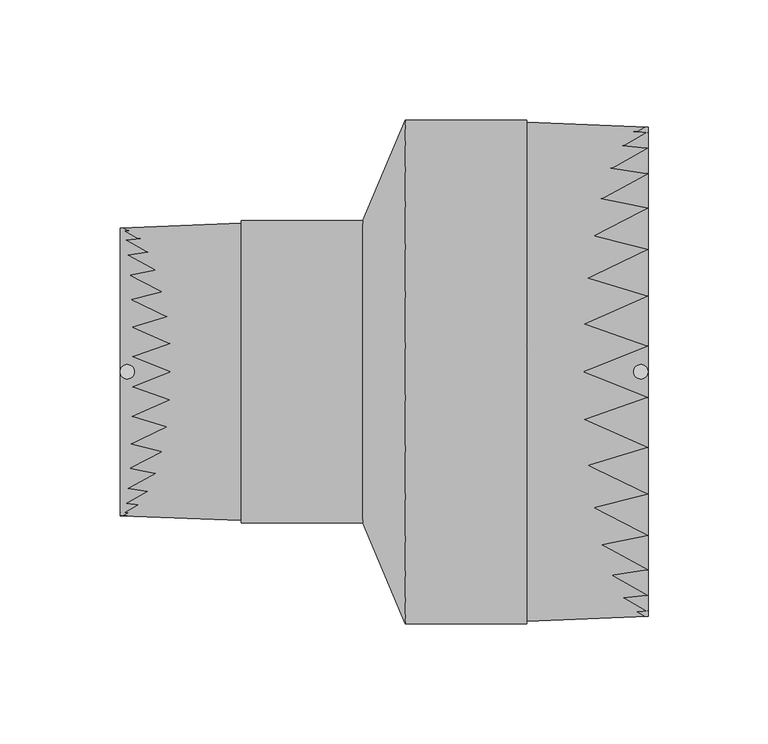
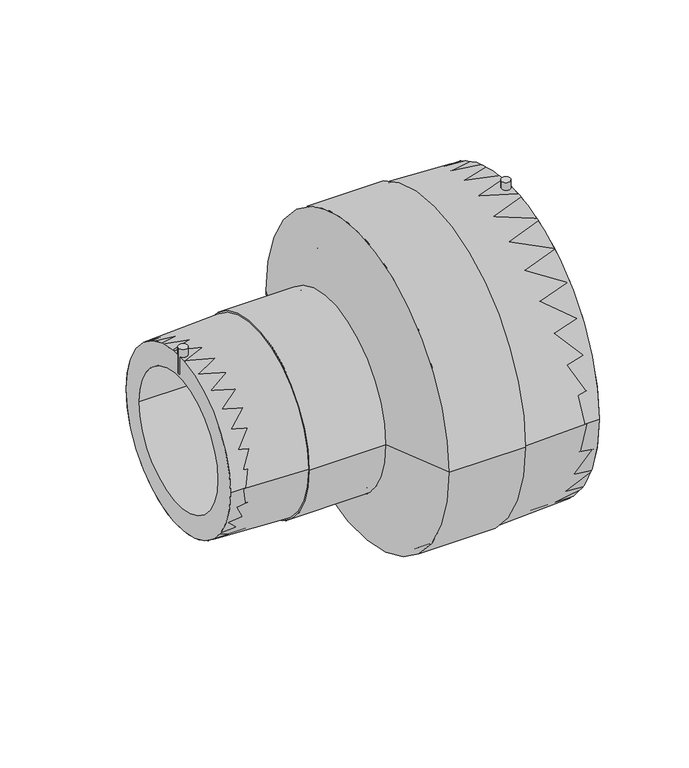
"""IFC4 building model written with IfcOpenShell, lengths in millimetres: pipe fitting geometry, EGB_VASEN_ PPR_Manguito reductor electrosoldable WXRD110 : Manguito reductor electrosoldable WXRD110."""

from ifc_helpers import new_model, si_unit, point, frame, frame_2d, origin, origin_2d, place, context, project, spatial, polyline, circle_curve, trimmed, segment, composite_curve, outline, extrude, source, transform, mapped, element, save
from ifc_brep_helpers import plane_surface, cylinder_surface, revolved_surface, advanced_brep


def pipe_fitting_d0497aa3(model_context):
    return source(origin(), model_context, "Body", "SolidModel", [
        extrude(outline(composite_curve([segment(trimmed(circle_curve(frame_2d((107.0, 0.0)), 3.0), [point((104.0, 0.0))], [point((110.0, 0.0))], False, "CARTESIAN"), True, "CONTINUOUS"), segment(trimmed(circle_curve(frame_2d((107.0, 0.0)), 3.0), [point((110.0, 0.0))], [point((104.0, 0.0))], False, "CARTESIAN"), True, "CONTINUOUS")], self_intersect=False)), frame((0.0, 0.0, 82.0), z_axis=(0.0, 0.0, 1.0), x_axis=(1.0, 0.0, 0.0)), (0.0, 0.0, 1.0), 25.0),
        extrude(outline(composite_curve([segment(trimmed(circle_curve(frame_2d((-107.0, 0.0)), 3.0), [point((-110.0, 0.0))], [point((-104.0, 0.0))], False, "CARTESIAN"), True, "CONTINUOUS"), segment(trimmed(circle_curve(frame_2d((-107.0, 0.0)), 3.0), [point((-104.0, 0.0))], [point((-110.0, 0.0))], False, "CARTESIAN"), True, "CONTINUOUS")], self_intersect=False)), frame((0.0, 0.0, 47.0), z_axis=(0.0, 0.0, 1.0), x_axis=(1.0, 0.0, 0.0)), (0.0, 0.0, 1.0), 18.0),
        extrude(outline(composite_curve([segment(trimmed(circle_curve(origin_2d(), 102.0), [point((-102.0, 0.0))], [point((102.0, 0.0))], False, "CARTESIAN"), True, "CONTINUOUS"), segment(trimmed(circle_curve(origin_2d(), 102.0), [point((102.0, 0.0))], [point((-102.0, 0.0))], False, "CARTESIAN"), True, "CONTINUOUS")], self_intersect=False), holes=[composite_curve([segment(trimmed(circle_curve(origin_2d(), 80.0), [point((-80.0, 0.0))], [point((80.0, 0.0))], True, "CARTESIAN"), True, "CONTINUOUS"), segment(trimmed(circle_curve(origin_2d(), 80.0), [point((80.0, 0.0))], [point((-80.0, 0.0))], True, "CARTESIAN"), True, "CONTINUOUS")], self_intersect=False)]), frame((8.8, 0.0, 0.0), z_axis=(1.0, 0.0, 0.0), x_axis=(0.0, 1.0, 0.0)), (0.0, 0.0, 1.0), 101.2),
        extrude(outline(composite_curve([segment(trimmed(circle_curve(origin_2d(), 60.0), [point((-60.0, 0.0))], [point((60.0, 0.0))], False, "CARTESIAN"), True, "CONTINUOUS"), segment(trimmed(circle_curve(origin_2d(), 60.0), [point((60.0, 0.0))], [point((-60.0, 0.0))], False, "CARTESIAN"), True, "CONTINUOUS")], self_intersect=False), holes=[composite_curve([segment(trimmed(circle_curve(origin_2d(), 45.0), [point((-45.0, 0.0))], [point((45.0, 0.0))], True, "CARTESIAN"), True, "CONTINUOUS"), segment(trimmed(circle_curve(origin_2d(), 45.0), [point((45.0, 0.0))], [point((-45.0, 0.0))], True, "CARTESIAN"), True, "CONTINUOUS")], self_intersect=False)]), frame((-110.0, 0.0, 0.0), z_axis=(1.0, 0.0, 0.0), x_axis=(0.0, 1.0, 0.0)), (0.0, 0.0, 1.0), 101.2),
        advanced_brep(
        [(8.8, -102.0, 0.0), (8.8, 102.0, 0.0), (-8.8, -60.0, 0.0), (-8.8, 60.0, 0.0)],
        [
            (0, 1, circle_curve(frame((8.8, 0.0, 0.0), z_axis=(1.0, 0.0, 0.0), x_axis=(0.0, -1.0, 0.0)), 102.0)),
            (1, 0, circle_curve(frame((8.8, 0.0, 0.0), z_axis=(1.0, 0.0, 0.0), x_axis=(0.0, 1.0, 0.0)), 102.0)),
            (2, 3, circle_curve(frame((-8.8, 0.0, 0.0), z_axis=(-1.0, 0.0, 0.0), x_axis=(0.0, 1.0, 0.0)), 60.0)),
            (3, 2, circle_curve(frame((-8.8, 0.0, 0.0), z_axis=(-1.0, 0.0, 0.0), x_axis=(0.0, -1.0, 0.0)), 60.0)),
            (3, 1),
            (0, 2),
        ],
        [
            plane_surface(frame((8.8, 0.0, 0.0), z_axis=(1.0, 0.0, 0.0), x_axis=(0.0, 0.0, -1.0))),
            plane_surface(frame((-8.8, 0.0, 0.0), z_axis=(-1.0, 0.0, 0.0), x_axis=(0.0, 0.0, -1.0))),
            revolved_surface(polyline([(-8.8, 59.999999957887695, 0.0), (8.799999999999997, 102.0, 0.0)]), (-33.9428571, 0.0, 0.0), (1.0, 0.0, 0.0)),
            revolved_surface(polyline([(-8.8, -59.999999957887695, 0.0), (8.799999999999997, -102.0, 0.0)]), (-33.9428571, 0.0, 0.0), (1.0, 0.0, 0.0)),
        ],
        [
            (0, [[1, 2]]),
            (1, [[3, 4]]),
            (2, [[-4, 5, -1, 6]]),
            (3, [[-3, -6, -2, -5]]),
        ],
    ),
        advanced_brep(
        [(8.8, -102.0, 0.0), (8.8, 102.0, 0.0), (-8.8, 60.0, 0.0), (-8.8, -60.0, 0.0), (110.0, -102.0, 0.0), (110.0, 102.0, 0.0), (59.4, -104.0, 0.0), (59.4, 104.0, 0.0), (59.4, -105.0, 0.0), (59.4, 105.0, 0.0), (8.8, -105.0, 0.0), (8.8, 105.0, 0.0), (-8.8, -63.0, 0.0), (-8.8, 63.0, 0.0), (-59.4, -63.0, 0.0), (-59.4, 63.0, 0.0), (-59.4, -62.0, 0.0), (-59.4, 62.0, 0.0), (-110.0, -60.0, 0.0), (-110.0, 60.0, 0.0)],
        [
            (0, 1, circle_curve(frame((8.8, 0.0, 0.0), z_axis=(1.0, 0.0, 0.0), x_axis=(0.0, 1.0, 0.0)), 102.0)),
            (1, 2),
            (2, 3, circle_curve(frame((-8.8, 0.0, 0.0), z_axis=(-1.0, 0.0, 0.0), x_axis=(0.0, 1.0, 0.0)), 60.0)),
            (3, 0),
            (1, 0, circle_curve(frame((8.8, 0.0, 0.0), z_axis=(1.0, 0.0, 0.0), x_axis=(0.0, 1.0, 0.0)), 102.0)),
            (3, 2, circle_curve(frame((-8.8, 0.0, 0.0), z_axis=(-1.0, 0.0, 0.0), x_axis=(0.0, 1.0, 0.0)), 60.0)),
            (4, 5, circle_curve(frame((110.0, 0.0, 0.0), z_axis=(1.0, 0.0, 0.0), x_axis=(0.0, 1.0, 0.0)), 102.0)),
            (5, 1),
            (0, 4),
            (5, 4, circle_curve(frame((110.0, 0.0, 0.0), z_axis=(1.0, 0.0, 0.0), x_axis=(0.0, 1.0, 0.0)), 102.0)),
            (6, 7, circle_curve(frame((59.4, 0.0, 0.0), z_axis=(1.0, 0.0, 0.0), x_axis=(0.0, 1.0, 0.0)), 104.0)),
            (7, 5),
            (4, 6),
            (7, 6, circle_curve(frame((59.4, 0.0, 0.0), z_axis=(1.0, 0.0, 0.0), x_axis=(0.0, 1.0, 0.0)), 104.0)),
            (8, 9, circle_curve(frame((59.4, 0.0, 0.0), z_axis=(1.0, 0.0, 0.0), x_axis=(0.0, 1.0, 0.0)), 105.0)),
            (9, 7),
            (6, 8),
            (9, 8, circle_curve(frame((59.4, 0.0, 0.0), z_axis=(1.0, 0.0, 0.0), x_axis=(0.0, 1.0, 0.0)), 105.0)),
            (10, 11, circle_curve(frame((8.8, 0.0, 0.0), z_axis=(1.0, 0.0, 0.0), x_axis=(0.0, 1.0, 0.0)), 105.0)),
            (11, 9),
            (8, 10),
            (11, 10, circle_curve(frame((8.8, 0.0, 0.0), z_axis=(1.0, 0.0, 0.0), x_axis=(0.0, 1.0, 0.0)), 105.0)),
            (12, 13, circle_curve(frame((-8.8, 0.0, 0.0), z_axis=(1.0, 0.0, 0.0), x_axis=(0.0, 1.0, 0.0)), 63.0)),
            (13, 11),
            (10, 12),
            (13, 12, circle_curve(frame((-8.8, 0.0, 0.0), z_axis=(1.0, 0.0, 0.0), x_axis=(0.0, 1.0, 0.0)), 63.0)),
            (14, 15, circle_curve(frame((-59.4, 0.0, 0.0), z_axis=(1.0, 0.0, 0.0), x_axis=(0.0, 1.0, 0.0)), 63.0)),
            (15, 13),
            (12, 14),
            (15, 14, circle_curve(frame((-59.4, 0.0, 0.0), z_axis=(1.0, 0.0, 0.0), x_axis=(0.0, 1.0, 0.0)), 63.0)),
            (16, 17, circle_curve(frame((-59.4, 0.0, 0.0), z_axis=(1.0, 0.0, 0.0), x_axis=(0.0, 1.0, 0.0)), 62.0)),
            (17, 15),
            (14, 16),
            (17, 16, circle_curve(frame((-59.4, 0.0, 0.0), z_axis=(1.0, 0.0, 0.0), x_axis=(0.0, 1.0, 0.0)), 62.0)),
            (18, 19, circle_curve(frame((-110.0, 0.0, 0.0), z_axis=(1.0, 0.0, 0.0), x_axis=(0.0, 1.0, 0.0)), 60.0)),
            (19, 17),
            (16, 18),
            (19, 18, circle_curve(frame((-110.0, 0.0, 0.0), z_axis=(1.0, 0.0, 0.0), x_axis=(0.0, 1.0, 0.0)), 60.0)),
            (2, 19),
            (18, 3),
        ],
        [
            revolved_surface(polyline([(-8.8, 60.0, 0.0), (8.8, 102.0, 0.0)]), (-145.0, 0.0, 0.0), (-1.0, 0.0, 0.0)),
            revolved_surface(polyline([(8.800000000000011, 102.0, 0.0), (110.0, 102.0, 0.0)]), (-145.0, 0.0, 0.0), (-1.0, 0.0, 0.0)),
            revolved_surface(polyline([(110.0, 102.0, 0.0), (59.4, 104.0, 0.0)]), (-145.0, 0.0, 0.0), (-1.0, 0.0, 0.0)),
            plane_surface(frame((59.4, 0.0, 0.0), z_axis=(1.0, 0.0, 0.0), x_axis=(0.0, 1.0, 0.0))),
            cylinder_surface(frame((-145.0, 0.0, 0.0), z_axis=(-1.0, 0.0, 0.0), x_axis=(0.0, 1.0, 0.0)), 105.0),
            revolved_surface(polyline([(8.8, 105.0, 0.0), (-8.8, 63.0, 0.0)]), (-145.0, 0.0, 0.0), (-1.0, 0.0, 0.0)),
            cylinder_surface(frame((-145.0, 0.0, 0.0), z_axis=(-1.0, 0.0, 0.0), x_axis=(0.0, 1.0, 0.0)), 63.0),
            plane_surface(frame((-59.4, 0.0, 0.0), z_axis=(-1.0, 0.0, 0.0), x_axis=(0.0, 1.0, 0.0))),
            revolved_surface(polyline([(-59.4, 62.0, 0.0), (-110.0, 60.0, 0.0)]), (-145.0, 0.0, 0.0), (-1.0, 0.0, 0.0)),
            revolved_surface(polyline([(-110.0, 60.0, 0.0), (-8.800000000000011, 60.0, 0.0)]), (-145.0, 0.0, 0.0), (-1.0, 0.0, 0.0)),
        ],
        [
            (0, [[1, 2, 3, 4]]),
            (0, [[5, -4, 6, -2]]),
            (1, [[7, 8, -1, 9]]),
            (1, [[10, -9, -5, -8]]),
            (2, [[11, 12, -7, 13]]),
            (2, [[14, -13, -10, -12]]),
            (3, [[15, 16, -11, 17]]),
            (3, [[18, -17, -14, -16]]),
            (4, [[19, 20, -15, 21]]),
            (4, [[22, -21, -18, -20]]),
            (5, [[23, 24, -19, 25]]),
            (5, [[26, -25, -22, -24]]),
            (6, [[27, 28, -23, 29]]),
            (6, [[30, -29, -26, -28]]),
            (7, [[31, 32, -27, 33]]),
            (7, [[34, -33, -30, -32]]),
            (8, [[35, 36, -31, 37]]),
            (8, [[38, -37, -34, -36]]),
            (9, [[-3, 39, -35, 40]]),
            (9, [[-6, -40, -38, -39]]),
        ],
    ),
    ])


if __name__ == "__main__":
    model = new_model("IFC4")
    model_context = context("Model", 3, world=origin())
    ifc_project = project(units=[si_unit("LENGTHUNIT", "METRE", prefix="MILLI")], contexts=[model_context])
    site = spatial("IfcSite", under=ifc_project)
    building = spatial("IfcBuilding", under=site)
    placement = place(None, origin())
    pipe_fitting_shape = pipe_fitting_d0497aa3(model_context)
    element("IfcPipeFitting", 1, ObjectType="EGB_VASEN_ PPR_Manguito reductor electrosoldable WXRD110 : Manguito reductor electrosoldable WXRD110", at=placement, inside=building, context=model_context, shape_type="MappedRepresentation", body=[
        mapped(pipe_fitting_shape, transform((0.0, 0.0, 0.0), x_axis=(1.0, 0.0, 0.0), y_axis=(0.0, 1.0, 0.0), z_axis=(0.0, 0.0, 1.0))),
    ])
    save(model, "model.ifc")
